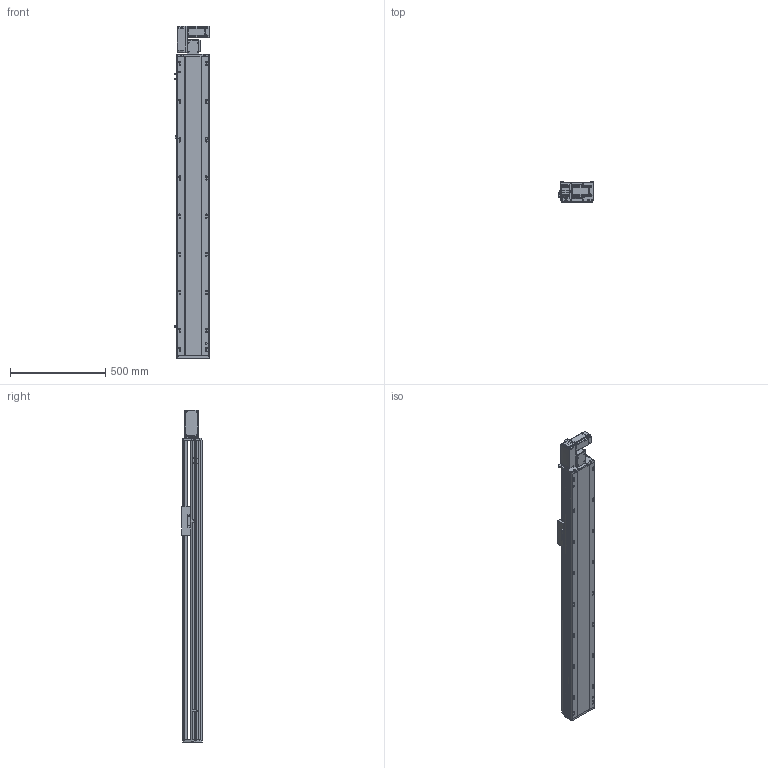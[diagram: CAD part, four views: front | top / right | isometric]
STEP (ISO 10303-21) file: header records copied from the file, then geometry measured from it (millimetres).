
FILE_DESCRIPTION (( 'STEP AP214' ), '1' );
FILE_NAME ('RTB17S-XX-1300-L-M40-C4.STEP', '2025-12-11T05:39:56', ( '' ), ( '' ), 'SwSTEP 2.0', 'SolidWorks 2018', '' );
FILE_SCHEMA (( 'AUTOMOTIVE_DESIGN' ));
Length unit declared in the file: millimetre
Products named in the file (14): RTB17-R-011底座^RTB17S-XX-XX-L-M40-C4（方程式）; RTB17S-XX-1300-L-M40-C4; RMP17S-L-014-T20--皮带座^RTB17S-L-皮带座装配-400W_RTB17S-XX-XX-L-M40-C4（方程式）; RTH13-BL-012感应片外置^RTB17S-XX-XX-L-M40-C4（方程式）; RTB14-L-017P^RTB17S-L-皮带座装配-400W_RTB17S-XX-XX-L-M40-C4（方程式）; 400W伺服电机^RTB17S-XX-XX-L-M40-C4（方程式）; RTB17S-L-004丝杆螺母连接座^RTB17S-XX-XX-L-M40-C4（方程式）; RTB14-L-008-M20--电机板^RTB17S-L-皮带座装配-400W_RTB17S-XX-XX-L-M40-C4（方程式）; RTB17S-L-001侧面板^RTB17S-XX-XX-L-M40-C4（方程式）; RTB17S-L-皮带座装配-400W^RTB17S-XX-XX-L-M40-C4（方程式）; RTB14-L-018P^RTB17S-L-皮带座装配-400W_RTB17S-XX-XX-L-M40-C4（方程式）; RTB14-L-005P--轴承塑胶压盖^RTB17S-L-皮带座装配-400W_RTB17S-XX-XX-L-M40-C4（方程式）; OMRON EE-SX672 传感器^RTB17S-XX-XX-L-M40-C4（方程式）; RTB17S-L-007上盖^RTB17S-XX-XX-L-M40-C4（方程式）
Assembly tree (16 placements, depth 3):
  RTB17S-XX-1300-L-M40-C4
    RTB17-R-011底座^RTB17S-XX-XX-L-M40-C4（方程式）
    RTB17S-L-007上盖^RTB17S-XX-XX-L-M40-C4（方程式）
    OMRON EE-SX672 传感器^RTB17S-XX-XX-L-M40-C4（方程式）  x3
    RTB17S-L-001侧面板^RTB17S-XX-XX-L-M40-C4（方程式）
    400W伺服电机^RTB17S-XX-XX-L-M40-C4（方程式）
    RTB17S-L-004丝杆螺母连接座^RTB17S-XX-XX-L-M40-C4（方程式）
    RTH13-BL-012感应片外置^RTB17S-XX-XX-L-M40-C4（方程式）
    RTB17S-L-皮带座装配-400W^RTB17S-XX-XX-L-M40-C4（方程式）
      RMP17S-L-014-T20--皮带座^RTB17S-L-皮带座装配-400W_RTB17S-XX-XX-L-M40-C4（方程式）
      RTB14-L-005P--轴承塑胶压盖^RTB17S-L-皮带座装配-400W_RTB17S-XX-XX-L-M40-C4（方程式）
      RTB14-L-008-M20--电机板^RTB17S-L-皮带座装配-400W_RTB17S-XX-XX-L-M40-C4（方程式）
      RTB14-L-017P^RTB17S-L-皮带座装配-400W_RTB17S-XX-XX-L-M40-C4（方程式）  x2
      RTB14-L-018P^RTB17S-L-皮带座装配-400W_RTB17S-XX-XX-L-M40-C4（方程式）
Bounding box: 186 x 108 x 1741 mm (x, y, z)
Volume: 14818216.7 mm3; surface area: 1765751.6 mm2
Topology: 15 solids, 15 shells, 2237 faces, 6195 edges, 4041 vertices
Faces by surface type: plane 1072, cylinder 717, bspline 301, cone 139, torus 8
Entity records: 64169 total; most frequent: CARTESIAN_POINT 18000, ORIENTED_EDGE 9234, DIRECTION 8576, EDGE_CURVE 4617, VERTEX_POINT 3029, AXIS2_PLACEMENT_3D 2959, LINE 2658, VECTOR 2658
